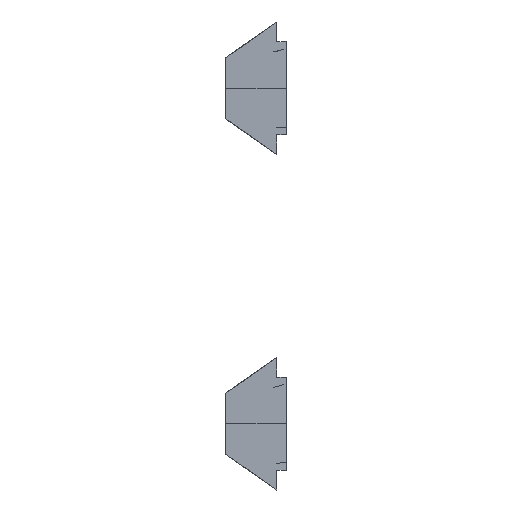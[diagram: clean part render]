
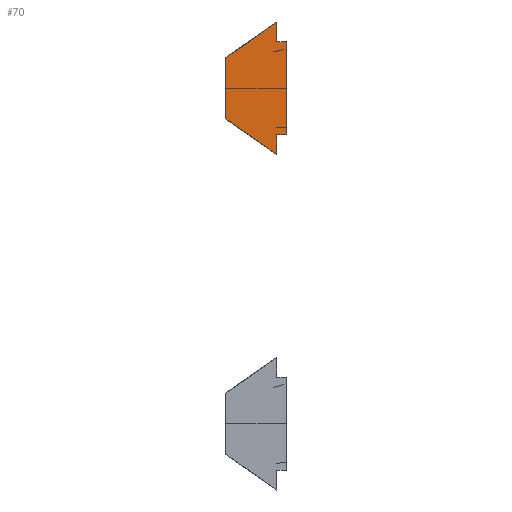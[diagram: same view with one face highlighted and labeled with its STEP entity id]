
A CAD part, left-side view. The second image highlights one B-rep face of the part: STEP entity #70.
In plain terms, the highlighted planar face has unit normal (-1, 0, 0) as drawn and (1, 0, 0) by its records, which use the part's own axes.
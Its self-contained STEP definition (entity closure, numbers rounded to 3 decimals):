
#70=ADVANCED_FACE('',(#109),#1456,.T.);
#109=FACE_OUTER_BOUND('',#149,.T.);
#149=EDGE_LOOP('',(#228,#229,#230,#231,#232,#233,#234,#235));
#228=ORIENTED_EDGE('',*,*,#963,.F.);
#229=ORIENTED_EDGE('',*,*,#970,.F.);
#230=ORIENTED_EDGE('',*,*,#975,.F.);
#231=ORIENTED_EDGE('',*,*,#978,.F.);
#232=ORIENTED_EDGE('',*,*,#981,.F.);
#233=ORIENTED_EDGE('',*,*,#984,.F.);
#234=ORIENTED_EDGE('',*,*,#989,.F.);
#235=ORIENTED_EDGE('',*,*,#991,.F.);
#423=PCURVE('',#1447,#639);
#430=PCURVE('',#1448,#646);
#436=PCURVE('',#1449,#652);
#440=PCURVE('',#1450,#656);
#444=PCURVE('',#1451,#660);
#448=PCURVE('',#1452,#664);
#454=PCURVE('',#1453,#670);
#458=PCURVE('',#1454,#674);
#468=PCURVE('',#1456,#684);
#469=PCURVE('',#1456,#685);
#470=PCURVE('',#1456,#686);
#471=PCURVE('',#1456,#687);
#472=PCURVE('',#1456,#688);
#473=PCURVE('',#1456,#689);
#474=PCURVE('',#1456,#690);
#475=PCURVE('',#1456,#691);
#639=DEFINITIONAL_REPRESENTATION('',(#1074),#2965);
#646=DEFINITIONAL_REPRESENTATION('',(#1086),#2965);
#652=DEFINITIONAL_REPRESENTATION('',(#1097),#2965);
#656=DEFINITIONAL_REPRESENTATION('',(#1104),#2965);
#660=DEFINITIONAL_REPRESENTATION('',(#1111),#2965);
#664=DEFINITIONAL_REPRESENTATION('',(#1118),#2965);
#670=DEFINITIONAL_REPRESENTATION('',(#1127),#2965);
#674=DEFINITIONAL_REPRESENTATION('',(#1133),#2965);
#684=DEFINITIONAL_REPRESENTATION('',(#1144),#2965);
#685=DEFINITIONAL_REPRESENTATION('',(#1145),#2965);
#686=DEFINITIONAL_REPRESENTATION('',(#1146),#2965);
#687=DEFINITIONAL_REPRESENTATION('',(#1147),#2965);
#688=DEFINITIONAL_REPRESENTATION('',(#1148),#2965);
#689=DEFINITIONAL_REPRESENTATION('',(#1149),#2965);
#690=DEFINITIONAL_REPRESENTATION('',(#1150),#2965);
#691=DEFINITIONAL_REPRESENTATION('',(#1151),#2965);
#855=SURFACE_CURVE('',#1073,(#423,#468),.PCURVE_S1.);
#862=SURFACE_CURVE('',#1085,(#430,#469),.PCURVE_S1.);
#867=SURFACE_CURVE('',#1096,(#436,#470),.PCURVE_S1.);
#870=SURFACE_CURVE('',#1103,(#440,#471),.PCURVE_S1.);
#873=SURFACE_CURVE('',#1110,(#444,#472),.PCURVE_S1.);
#876=SURFACE_CURVE('',#1117,(#448,#473),.PCURVE_S1.);
#881=SURFACE_CURVE('',#1126,(#454,#474),.PCURVE_S1.);
#883=SURFACE_CURVE('',#1132,(#458,#475),.PCURVE_S1.);
#963=EDGE_CURVE('',#1371,#1372,#855,.T.);
#970=EDGE_CURVE('',#1374,#1371,#862,.T.);
#975=EDGE_CURVE('',#1376,#1374,#867,.T.);
#978=EDGE_CURVE('',#1378,#1376,#870,.T.);
#981=EDGE_CURVE('',#1380,#1378,#873,.T.);
#984=EDGE_CURVE('',#1382,#1380,#876,.T.);
#989=EDGE_CURVE('',#1384,#1382,#881,.T.);
#991=EDGE_CURVE('',#1372,#1384,#883,.T.);
#1073=B_SPLINE_CURVE_WITH_KNOTS('',1,(#1701,#1702),.UNSPECIFIED.,.F.,.F.,
(2,2),(0.,3.906),.UNSPECIFIED.);
#1074=B_SPLINE_CURVE_WITH_KNOTS('',1,(#1703,#1704),.UNSPECIFIED.,.F.,.F.,
(2,2),(0.,3.906),.UNSPECIFIED.);
#1085=B_SPLINE_CURVE_WITH_KNOTS('',1,(#1741,#1742),.UNSPECIFIED.,.F.,.F.,
(2,2),(-3.819,0.),.UNSPECIFIED.);
#1086=B_SPLINE_CURVE_WITH_KNOTS('',1,(#1743,#1744),.UNSPECIFIED.,.F.,.F.,
(2,2),(-3.819,0.),.UNSPECIFIED.);
#1096=B_SPLINE_CURVE_WITH_KNOTS('',1,(#1793,#1794),.UNSPECIFIED.,.F.,.F.,
(2,2),(-7.725,-3.819),.UNSPECIFIED.);
#1097=B_SPLINE_CURVE_WITH_KNOTS('',1,(#1795,#1796),.UNSPECIFIED.,.F.,.F.,
(2,2),(-7.725,-3.819),.UNSPECIFIED.);
#1103=B_SPLINE_CURVE_WITH_KNOTS('',1,(#1807,#1808),.UNSPECIFIED.,.F.,.F.,
(2,2),(-8.975,-7.725),.UNSPECIFIED.);
#1104=B_SPLINE_CURVE_WITH_KNOTS('',1,(#1809,#1810),.UNSPECIFIED.,.F.,.F.,
(2,2),(-8.975,-7.725),.UNSPECIFIED.);
#1110=B_SPLINE_CURVE_WITH_KNOTS('',1,(#1821,#1822),.UNSPECIFIED.,.F.,.F.,
(2,2),(-9.575,-8.975),.UNSPECIFIED.);
#1111=B_SPLINE_CURVE_WITH_KNOTS('',1,(#1823,#1824),.UNSPECIFIED.,.F.,.F.,
(2,2),(-9.575,-8.975),.UNSPECIFIED.);
#1117=B_SPLINE_CURVE_WITH_KNOTS('',1,(#1835,#1836),.UNSPECIFIED.,.F.,.F.,
(2,2),(-15.375,-9.575),.UNSPECIFIED.);
#1118=B_SPLINE_CURVE_WITH_KNOTS('',1,(#1837,#1838),.UNSPECIFIED.,.F.,.F.,
(2,2),(-15.375,-9.575),.UNSPECIFIED.);
#1126=B_SPLINE_CURVE_WITH_KNOTS('',1,(#1909,#1910),.UNSPECIFIED.,.F.,.F.,
(2,2),(-15.975,-15.375),.UNSPECIFIED.);
#1127=B_SPLINE_CURVE_WITH_KNOTS('',1,(#1911,#1912),.UNSPECIFIED.,.F.,.F.,
(2,2),(-15.975,-15.375),.UNSPECIFIED.);
#1132=B_SPLINE_CURVE_WITH_KNOTS('',1,(#1921,#1922),.UNSPECIFIED.,.F.,.F.,
(2,2),(-17.225,-15.975),.UNSPECIFIED.);
#1133=B_SPLINE_CURVE_WITH_KNOTS('',1,(#1923,#1924),.UNSPECIFIED.,.F.,.F.,
(2,2),(-17.225,-15.975),.UNSPECIFIED.);
#1144=B_SPLINE_CURVE_WITH_KNOTS('',1,(#1945,#1946),.UNSPECIFIED.,.F.,.F.,
(2,2),(0.,3.906),.UNSPECIFIED.);
#1145=B_SPLINE_CURVE_WITH_KNOTS('',1,(#1947,#1948),.UNSPECIFIED.,.F.,.F.,
(2,2),(-3.819,0.),.UNSPECIFIED.);
#1146=B_SPLINE_CURVE_WITH_KNOTS('',1,(#1949,#1950),.UNSPECIFIED.,.F.,.F.,
(2,2),(-7.725,-3.819),.UNSPECIFIED.);
#1147=B_SPLINE_CURVE_WITH_KNOTS('',1,(#1951,#1952),.UNSPECIFIED.,.F.,.F.,
(2,2),(-8.975,-7.725),.UNSPECIFIED.);
#1148=B_SPLINE_CURVE_WITH_KNOTS('',1,(#1953,#1954),.UNSPECIFIED.,.F.,.F.,
(2,2),(-9.575,-8.975),.UNSPECIFIED.);
#1149=B_SPLINE_CURVE_WITH_KNOTS('',1,(#1955,#1956),.UNSPECIFIED.,.F.,.F.,
(2,2),(-15.375,-9.575),.UNSPECIFIED.);
#1150=B_SPLINE_CURVE_WITH_KNOTS('',1,(#1957,#1958),.UNSPECIFIED.,.F.,.F.,
(2,2),(-15.975,-15.375),.UNSPECIFIED.);
#1151=B_SPLINE_CURVE_WITH_KNOTS('',1,(#1959,#1960),.UNSPECIFIED.,.F.,.F.,
(2,2),(-17.225,-15.975),.UNSPECIFIED.);
#1371=VERTEX_POINT('',#1641);
#1372=VERTEX_POINT('',#1642);
#1374=VERTEX_POINT('',#1644);
#1376=VERTEX_POINT('',#1646);
#1378=VERTEX_POINT('',#1648);
#1380=VERTEX_POINT('',#1650);
#1382=VERTEX_POINT('',#1652);
#1384=VERTEX_POINT('',#1654);
#1447=PLANE('',#1518);
#1448=PLANE('',#1519);
#1449=PLANE('',#1520);
#1450=PLANE('',#1521);
#1451=PLANE('',#1522);
#1452=PLANE('',#1523);
#1453=PLANE('',#1524);
#1454=PLANE('',#1525);
#1456=PLANE('',#1527);
#1518=AXIS2_PLACEMENT_3D('',#1593,#1554,$);
#1519=AXIS2_PLACEMENT_3D('',#1594,#1555,$);
#1520=AXIS2_PLACEMENT_3D('',#1595,#1556,$);
#1521=AXIS2_PLACEMENT_3D('',#1596,#1557,$);
#1522=AXIS2_PLACEMENT_3D('',#1597,#1558,$);
#1523=AXIS2_PLACEMENT_3D('',#1598,#1559,$);
#1524=AXIS2_PLACEMENT_3D('',#1599,#1560,$);
#1525=AXIS2_PLACEMENT_3D('',#1600,#1561,$);
#1527=AXIS2_PLACEMENT_3D('',#1638,#1563,$);
#1554=DIRECTION('',(0.,-0.574,0.819));
#1555=DIRECTION('',(0.,-1.,0.));
#1556=DIRECTION('',(0.,-0.574,-0.819));
#1557=DIRECTION('',(0.,1.,0.));
#1558=DIRECTION('',(0.,0.,-1.));
#1559=DIRECTION('',(0.,1.,0.));
#1560=DIRECTION('',(0.,0.,1.));
#1561=DIRECTION('',(0.,1.,0.));
#1563=DIRECTION('',(1.,0.,0.));
#1593=CARTESIAN_POINT('',(-709.,37.,10.85));
#1594=CARTESIAN_POINT('',(-709.,40.2,13.091));
#1595=CARTESIAN_POINT('',(-709.,40.2,16.909));
#1596=CARTESIAN_POINT('',(-709.,37.,19.15));
#1597=CARTESIAN_POINT('',(-709.,37.,17.9));
#1598=CARTESIAN_POINT('',(-709.,36.4,17.9));
#1599=CARTESIAN_POINT('',(-709.,36.4,12.1));
#1600=CARTESIAN_POINT('',(-709.,37.,12.1));
#1638=CARTESIAN_POINT('',(-726.,40.675,20.187));
#1641=CARTESIAN_POINT('',(-726.,40.2,13.091));
#1642=CARTESIAN_POINT('',(-726.,37.,10.85));
#1644=CARTESIAN_POINT('',(-726.,40.2,16.909));
#1646=CARTESIAN_POINT('',(-726.,37.,19.15));
#1648=CARTESIAN_POINT('',(-726.,37.,17.9));
#1650=CARTESIAN_POINT('',(-726.,36.4,17.9));
#1652=CARTESIAN_POINT('',(-726.,36.4,12.1));
#1654=CARTESIAN_POINT('',(-726.,37.,12.1));
#1701=CARTESIAN_POINT('',(-726.,40.2,13.091));
#1702=CARTESIAN_POINT('',(-726.,37.,10.85));
#1703=CARTESIAN_POINT('',(0.,17.));
#1704=CARTESIAN_POINT('',(-3.906,17.));
#1741=CARTESIAN_POINT('',(-726.,40.2,16.909));
#1742=CARTESIAN_POINT('',(-726.,40.2,13.091));
#1743=CARTESIAN_POINT('',(3.819,17.));
#1744=CARTESIAN_POINT('',(0.,17.));
#1793=CARTESIAN_POINT('',(-726.,37.,19.15));
#1794=CARTESIAN_POINT('',(-726.,40.2,16.909));
#1795=CARTESIAN_POINT('',(7.725,17.));
#1796=CARTESIAN_POINT('',(3.819,17.));
#1807=CARTESIAN_POINT('',(-726.,37.,17.9));
#1808=CARTESIAN_POINT('',(-726.,37.,19.15));
#1809=CARTESIAN_POINT('',(8.975,17.));
#1810=CARTESIAN_POINT('',(7.725,17.));
#1821=CARTESIAN_POINT('',(-726.,36.4,17.9));
#1822=CARTESIAN_POINT('',(-726.,37.,17.9));
#1823=CARTESIAN_POINT('',(9.575,17.));
#1824=CARTESIAN_POINT('',(8.975,17.));
#1835=CARTESIAN_POINT('',(-726.,36.4,12.1));
#1836=CARTESIAN_POINT('',(-726.,36.4,17.9));
#1837=CARTESIAN_POINT('',(15.375,17.));
#1838=CARTESIAN_POINT('',(9.575,17.));
#1909=CARTESIAN_POINT('',(-726.,37.,12.1));
#1910=CARTESIAN_POINT('',(-726.,36.4,12.1));
#1911=CARTESIAN_POINT('',(15.975,17.));
#1912=CARTESIAN_POINT('',(15.375,17.));
#1921=CARTESIAN_POINT('',(-726.,37.,10.85));
#1922=CARTESIAN_POINT('',(-726.,37.,12.1));
#1923=CARTESIAN_POINT('',(17.225,17.));
#1924=CARTESIAN_POINT('',(15.975,17.));
#1945=CARTESIAN_POINT('',(-3.2,-2.241));
#1946=CARTESIAN_POINT('',(0.,0.));
#1947=CARTESIAN_POINT('',(-3.2,-6.059));
#1948=CARTESIAN_POINT('',(-3.2,-2.241));
#1949=CARTESIAN_POINT('',(0.,-8.3));
#1950=CARTESIAN_POINT('',(-3.2,-6.059));
#1951=CARTESIAN_POINT('',(0.,-7.05));
#1952=CARTESIAN_POINT('',(0.,-8.3));
#1953=CARTESIAN_POINT('',(0.6,-7.05));
#1954=CARTESIAN_POINT('',(0.,-7.05));
#1955=CARTESIAN_POINT('',(0.6,-1.25));
#1956=CARTESIAN_POINT('',(0.6,-7.05));
#1957=CARTESIAN_POINT('',(0.,-1.25));
#1958=CARTESIAN_POINT('',(0.6,-1.25));
#1959=CARTESIAN_POINT('',(0.,0.));
#1960=CARTESIAN_POINT('',(0.,-1.25));
#2965=(
GEOMETRIC_REPRESENTATION_CONTEXT(2)
PARAMETRIC_REPRESENTATION_CONTEXT()
REPRESENTATION_CONTEXT('pspace','')
);
